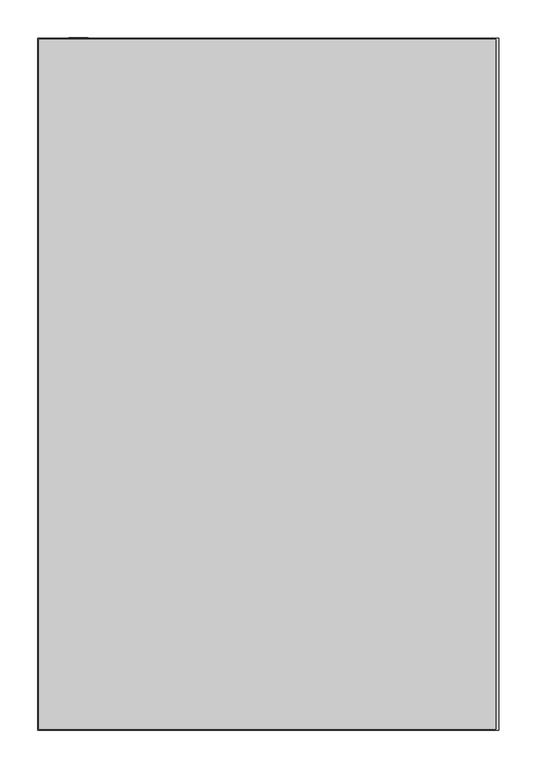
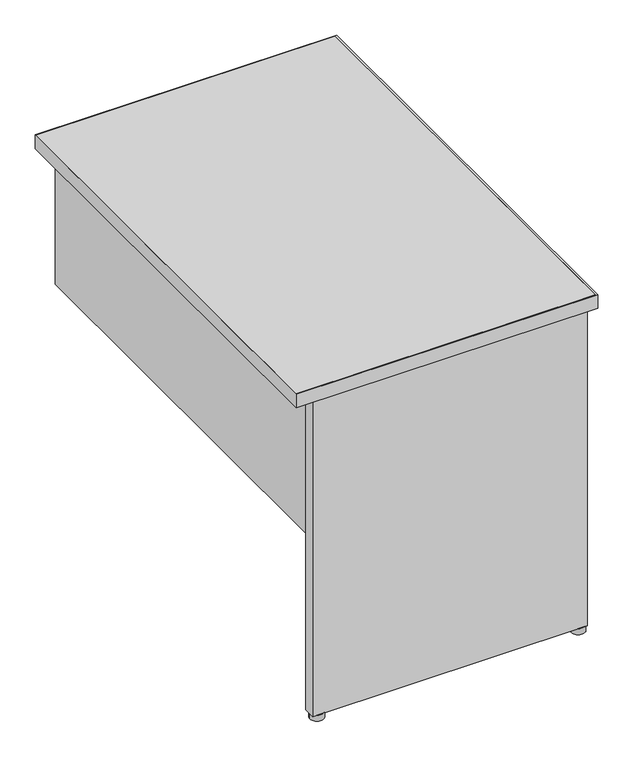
"""IFC4 building model written with IfcOpenShell, lengths in millimetres: furniture geometry, Steelcase - Kick Freestanding - Desk - Return - Partial Height Modesty Panel : 24D x 36W - Left."""

from ifc_helpers import new_model, si_unit, point, frame, frame_2d, origin, origin_with_axes, place, context, project, spatial, polyline, circle_curve, trimmed, segment, composite_curve, outline, extrude, source, transform, mapped, element, save


def furniture_7129fad6(model_context):
    return source(origin(), model_context, "Body", "SweptSolid", [
        extrude(outline(composite_curve([segment(trimmed(circle_curve(frame_2d((2220.2474425, -1435.8145152)), 13.97), [point((2206.2774425, -1435.8145152))], [point((2234.2174425, -1435.8145152))], False, "CARTESIAN"), True, "CONTINUOUS"), segment(trimmed(circle_curve(frame_2d((2220.2474425, -1435.8145152)), 13.97), [point((2234.2174425, -1435.8145152))], [point((2206.2774425, -1435.8145152))], False, "CARTESIAN"), True, "CONTINUOUS")], self_intersect=False)), origin_with_axes(), (0.0, 0.0, 1.0), 12.7),
        extrude(outline(composite_curve([segment(trimmed(circle_curve(frame_2d((2748.0594425, -1435.8145152)), 13.97), [point((2734.0894425, -1435.8145152))], [point((2762.0294425, -1435.8145152))], False, "CARTESIAN"), True, "CONTINUOUS"), segment(trimmed(circle_curve(frame_2d((2748.0594425, -1435.8145152)), 13.97), [point((2762.0294425, -1435.8145152))], [point((2734.0894425, -1435.8145152))], False, "CARTESIAN"), True, "CONTINUOUS")], self_intersect=False)), origin_with_axes(), (0.0, 0.0, 1.0), 12.7),
        extrude(outline(polyline([(2205.0074425, -1423.2669152), (2328.2736437, -1423.2669152), (2328.2736437, -1445.6951136), (2427.9940467, -1445.6951136), (2427.9940467, -1423.2669041), (2536.7314502, -1423.2669041), (2536.7314502, -1445.6951136), (2636.4518532, -1445.6951136), (2636.4518532, -1423.2669041), (2759.4894376, -1423.2669041), (2759.4894376, -1447.7525098), (2205.0074425, -1447.7525098), (2205.0074425, -1423.2669152)])), frame((0.0, 0.0, 12.7), z_axis=(0.0, 0.0, 1.0), x_axis=(1.0, 0.0, 0.0)), (0.0, 0.0, 1.0), 682.244),
        extrude(outline(polyline([(2230.4074426, -546.0525152), (2230.4074426, -1423.2669152), (2205.0074425, -1423.2669152), (2205.0074425, -546.0525152), (2230.4074426, -546.0525152)])), frame((0.0, 0.0, 390.144), z_axis=(0.0, 0.0, 1.0), x_axis=(1.0, 0.0, 0.0)), (0.0, 0.0, 1.0), 304.8),
        extrude(outline(polyline([(2769.2176592, -548.0845152), (2769.2176592, -1459.9445152), (2164.8500425, -1459.9445152), (2164.8500425, -548.0845152), (2769.2176592, -548.0845152)])), frame((0.0, 0.0, 694.944), z_axis=(0.0, 0.0, 1.0), x_axis=(1.0, 0.0, 0.0)), (0.0, 0.0, 1.0), 28.956),
        extrude(outline(polyline([(2773.4594425, -546.8145152), (2773.4594425, -1461.2145152), (2163.8594425, -1461.2145152), (2163.8594425, -546.8145152), (2773.4594425, -546.8145152)]), holes=[polyline([(2769.2176592, -548.0845152), (2164.8500425, -548.0845152), (2164.8500425, -1459.9445152), (2769.2176592, -1459.9445152), (2769.2176592, -548.0845152)])]), frame((0.0, 0.0, 694.944), z_axis=(0.0, 0.0, 1.0), x_axis=(1.0, 0.0, 0.0)), (0.0, 0.0, 1.0), 28.956),
    ])


if __name__ == "__main__":
    model = new_model("IFC4")
    model_context = context("Model", 3, world=origin())
    ifc_project = project(units=[si_unit("LENGTHUNIT", "METRE", prefix="MILLI")], contexts=[model_context])
    site = spatial("IfcSite", under=ifc_project)
    building = spatial("IfcBuilding", under=site)
    placement = place(None, origin())
    furniture_shape = furniture_7129fad6(model_context)
    element("IfcFurniture", 1, ObjectType="Steelcase - Kick Freestanding - Desk - Return - Partial Height Modesty Panel : 24D x 36W - Left", at=placement, inside=building, context=model_context, shape_type="MappedRepresentation", body=[
        mapped(furniture_shape, transform((0.0, 0.0, 0.0), x_axis=(1.0, 0.0, 0.0), y_axis=(0.0, 1.0, 0.0), z_axis=(0.0, 0.0, 1.0))),
    ])
    save(model, "model.ifc")
